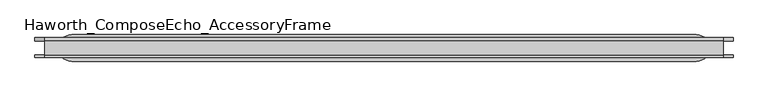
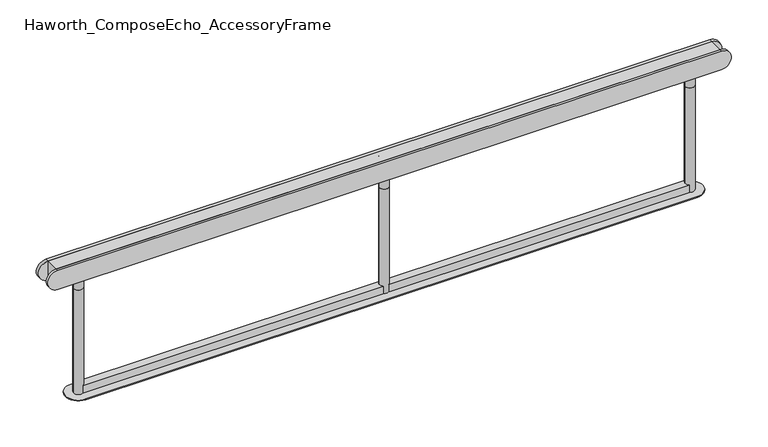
"""IFC4 building model written with IfcOpenShell, lengths in millimetres: furniture geometry, Haworth_ComposeEcho_AccessoryFrame : 72w 13h No Frame."""

import ifcopenshell
import ifcopenshell.guid

model = None  # the IFC model being written
_history = None  # IfcOwnerHistory: only IFC2X3 demands one
_inside = {}  # id of a spatial element -> (the spatial element, [elements in it])
_under = {}  # id of a project, library or spatial element -> (it, [spatial elements below it])
_declared = {}  # id of a project -> (the project, [libraries it declares])
_typed = {}  # id of a type object -> (the type object, [elements of that type])
_made_of = {}  # id of a material, layer set ... -> (it, [elements and type objects made of it])


def new_model(schema):
    """Start an empty IFC model of exactly this schema.

    Asked for "IFC4X3", IfcOpenShell would pick the latest addendum, in which some entities
    have other attributes; the version numbers below select the first issue.
    IFC2X3 requires an IfcOwnerHistory on every rooted entity: one is made here for all.
    """
    global model, _history
    if schema == "IFC4X3":
        model = ifcopenshell.file(schema_version=(4, 3, 0, 0))
    else:
        model = ifcopenshell.file(schema=schema)
    _inside.clear()
    _under.clear()
    _declared.clear()
    _typed.clear()
    _made_of.clear()
    _history = None
    if model.schema == "IFC2X3":
        org = make("IfcOrganization", Name="unknown")
        user = make(
            "IfcPersonAndOrganization",
            ThePerson=make("IfcPerson", FamilyName="unknown"),
            TheOrganization=org,
        )
        app = make(
            "IfcApplication",
            ApplicationDeveloper=org,
            Version="unknown",
            ApplicationFullName="unknown",
            ApplicationIdentifier="unknown",
        )
        _history = make(
            "IfcOwnerHistory",
            OwningUser=user,
            OwningApplication=app,
            ChangeAction="ADDED",
            CreationDate=0,
        )
    return model


def make(cls, **values):
    """One entity of the class cls with the attributes given. An attribute that is None is left unset."""
    return model.create_entity(
        cls, **{name: value for name, value in values.items() if value is not None}
    )


def rooted(cls, **values):
    """An entity with a GlobalId (a new one), such as an element, a storey or a relation."""
    return make(cls, GlobalId=ifcopenshell.guid.new(), OwnerHistory=_history, **values)


def si_unit(unit_type, name, prefix=None):
    """IfcSIUnit, for example si_unit("LENGTHUNIT", "METRE", prefix="MILLI")."""
    return make("IfcSIUnit", UnitType=unit_type, Prefix=prefix, Name=name)


def assignment(units):
    """IfcUnitAssignment: the units of a project."""
    return None if units is None else make("IfcUnitAssignment", Units=units)


def point(xyz):
    """IfcCartesianPoint."""
    return None if xyz is None else make("IfcCartesianPoint", Coordinates=xyz)


def direction(xyz):
    """IfcDirection."""
    return None if xyz is None else make("IfcDirection", DirectionRatios=xyz)


def frame(location, z_axis=None, x_axis=None):
    """IfcAxis2Placement3D, a coordinate frame: its origin and axes. An axis left out is left unset."""
    return make(
        "IfcAxis2Placement3D",
        Location=point(location),
        Axis=direction(z_axis),
        RefDirection=direction(x_axis),
    )


def frame_2d(location, x_axis=None):
    """IfcAxis2Placement2D, a coordinate frame in the plane: its origin and x axis."""
    return make(
        "IfcAxis2Placement2D", Location=point(location), RefDirection=direction(x_axis)
    )


def origin():
    """The frame at (0, 0, 0) with its axes left unset."""
    return frame((0.0, 0.0, 0.0))


def place(relative_to, where):
    """IfcLocalPlacement: puts the frame where relative to a parent placement (None: the world)."""
    return make(
        "IfcLocalPlacement", PlacementRelTo=relative_to, RelativePlacement=where
    )


def context(
    kind, dimensions, precision=None, world=None, true_north=None, identifier=None
):
    """IfcGeometricRepresentationContext, for example the 3D "Model" context."""
    return make(
        "IfcGeometricRepresentationContext",
        ContextIdentifier=identifier,
        ContextType=kind,
        CoordinateSpaceDimension=dimensions,
        Precision=precision,
        WorldCoordinateSystem=world,
        TrueNorth=true_north,
    )


def project(units=None, contexts=None):
    """IfcProject with its units and contexts."""
    return rooted(
        "IfcProject",
        Name="project",
        RepresentationContexts=contexts,
        UnitsInContext=assignment(units),
    )


def spatial(cls, under=None, at=None, **own):
    """A site, building, storey or space (cls), placed at a placement, below another one or the project."""
    s = rooted(cls, ObjectPlacement=at, **own)
    if under is not None:
        _under.setdefault(under.id(), (under, []))[1].append(s)
    return s


def polyline(points):
    """IfcPolyline through the points."""
    return make("IfcPolyline", Points=[point(p) for p in points])


def circle_curve(where, radius):
    """IfcCircle in the frame where."""
    return make("IfcCircle", Position=where, Radius=radius)


def trimmed(basis, trim1, trim2, sense, master):
    """IfcTrimmedCurve: the piece of a basis curve between two trims."""
    return make(
        "IfcTrimmedCurve",
        BasisCurve=basis,
        Trim1=trim1,
        Trim2=trim2,
        SenseAgreement=sense,
        MasterRepresentation=master,
    )


def segment(curve, same_sense, transition):
    """IfcCompositeCurveSegment."""
    return make(
        "IfcCompositeCurveSegment",
        Transition=transition,
        SameSense=same_sense,
        ParentCurve=curve,
    )


def composite_curve(segments, self_intersect=None):
    """IfcCompositeCurve: segments joined end to end."""
    return make("IfcCompositeCurve", Segments=segments, SelfIntersect=self_intersect)


def outline(outer, holes=None, kind="AREA"):
    """IfcArbitraryClosedProfileDef: a profile drawn as a closed curve; with holes, ...WithVoids."""
    if holes is None:
        return make("IfcArbitraryClosedProfileDef", ProfileType=kind, OuterCurve=outer)
    return make(
        "IfcArbitraryProfileDefWithVoids",
        ProfileType=kind,
        OuterCurve=outer,
        InnerCurves=holes,
    )


def extrude(swept, where, along, depth):
    """IfcExtrudedAreaSolid: the profile swept, set in the frame where, extruded along a direction by depth."""
    return make(
        "IfcExtrudedAreaSolid",
        SweptArea=swept,
        Position=where,
        ExtrudedDirection=direction(along),
        Depth=depth,
    )


def shape(context_of_items, identifier, shape_type, items):
    """IfcShapeRepresentation: the items that make up one representation, for example the "Body"."""
    return make(
        "IfcShapeRepresentation",
        ContextOfItems=context_of_items,
        RepresentationIdentifier=identifier,
        RepresentationType=shape_type,
        Items=items,
    )


def source(mapping_origin, context_of_items, identifier, shape_type, items):
    """IfcRepresentationMap: a shape defined once, which mapped items show again and again."""
    return make(
        "IfcRepresentationMap",
        MappingOrigin=mapping_origin,
        MappedRepresentation=shape(context_of_items, identifier, shape_type, items),
    )


def transform(
    local_origin,
    x_axis=None,
    y_axis=None,
    z_axis=None,
    scale=None,
    scale2=None,
    scale3=None,
    uniform=True,
):
    """IfcCartesianTransformationOperator3D, or its non-uniform kind. x_axis, y_axis, z_axis: its Axis1, 2, 3."""
    if uniform:
        return make(
            "IfcCartesianTransformationOperator3D",
            Axis1=direction(x_axis),
            Axis2=direction(y_axis),
            LocalOrigin=point(local_origin),
            Scale=scale,
            Axis3=direction(z_axis),
        )
    return make(
        "IfcCartesianTransformationOperator3DnonUniform",
        Axis1=direction(x_axis),
        Axis2=direction(y_axis),
        LocalOrigin=point(local_origin),
        Scale=scale,
        Axis3=direction(z_axis),
        Scale2=scale2,
        Scale3=scale3,
    )


def mapped(mapping_source, mapping_target):
    """IfcMappedItem: shows the shape of a source again, moved by a transform."""
    return make(
        "IfcMappedItem", MappingSource=mapping_source, MappingTarget=mapping_target
    )


def made_of(thing, what):
    """Note that an element or type object is made of a material, layer set ...; save() writes the relation."""
    if what is not None:
        _made_of.setdefault(what.id(), (what, []))[1].append(thing)
    return thing


def element(
    cls,
    number,
    at=None,
    inside=None,
    cuts=None,
    type_object=None,
    material=None,
    context=None,
    identifier="Body",
    shape_type=None,
    held_by="IfcProductDefinitionShape",
    body=None,
    shapes=None,
    **own,
):
    """One element of the class cls, such as IfcWall. Its Tag is "e" and its number.

    at: its placement. inside: the storey or other place that contains it. cuts: it is an
    opening in that element (IfcRelVoidsElement). A single representation is given by context,
    identifier, shape_type and body (its items); several are given by shapes. held_by: the class
    of the entity that holds the representations. save() writes the other relations.
    """
    e = rooted(cls, Tag="e%d" % number, ObjectPlacement=at, **own)
    if body is not None:
        shapes = [shape(context, identifier, shape_type, body)]
    if shapes is not None:
        e.Representation = make(held_by, Representations=shapes)
    if inside is not None:
        _inside.setdefault(inside.id(), (inside, []))[1].append(e)
    if cuts is not None:
        rooted(
            "IfcRelVoidsElement", RelatingBuildingElement=cuts, RelatedOpeningElement=e
        )
    if type_object is not None:
        _typed.setdefault(type_object.id(), (type_object, []))[1].append(e)
    return made_of(e, material)


def aggregate(whole, parts):
    """IfcRelAggregates: a whole, such as a stair, and the parts it consists of."""
    return rooted("IfcRelAggregates", RelatingObject=whole, RelatedObjects=parts)


def save(model, path):
    """Write the relations noted so far, then the file.

    IfcRelAggregates (storeys below a building ...), IfcRelContainedInSpatialStructure (elements
    in a storey), IfcRelDefinesByType, IfcRelAssociatesMaterial and IfcRelDeclares: one each for
    every whole, place, type object, material and project.
    """
    for whole, parts in _under.values():
        aggregate(whole, parts)
    for where, things in _inside.values():
        rooted(
            "IfcRelContainedInSpatialStructure",
            RelatedElements=things,
            RelatingStructure=where,
        )
    for kind, things in _typed.values():
        rooted("IfcRelDefinesByType", RelatedObjects=things, RelatingType=kind)
    for what, things in _made_of.values():
        rooted("IfcRelAssociatesMaterial", RelatedObjects=things, RelatingMaterial=what)
    for by, libraries in _declared.values():
        rooted("IfcRelDeclares", RelatingContext=by, RelatedDefinitions=libraries)
    model.write(path)


def haworth_composeecho_accessoryframe_02b97702(model_context):
    return source(origin(), model_context, "Body", "SweptSolid", [
        extrude(outline(composite_curve([segment(trimmed(circle_curve(frame_2d((2.4402902, 0.0)), 11.1130959), [point((-8.6728057, 0.0))], [point((13.5533861, 0.0))], False, "CARTESIAN"), True, "CONTINUOUS"), segment(trimmed(circle_curve(frame_2d((2.4402902, 0.0)), 11.1130959), [point((13.5533861, 0.0))], [point((-8.6728057, 0.0))], False, "CARTESIAN"), True, "CONTINUOUS")], self_intersect=False)), frame((0.0, 0.0, 1335.081865), z_axis=(0.0, 0.0, 1.0), x_axis=(1.0, 0.0, 0.0)), (0.0, 0.0, 1.0), 76.2),
        extrude(outline(composite_curve([segment(trimmed(circle_curve(frame_2d((2.4402902, 0.0)), 11.1130959), [point((-8.6728057, 0.0))], [point((13.5533861, 0.0))], False, "CARTESIAN"), True, "CONTINUOUS"), segment(trimmed(circle_curve(frame_2d((2.4402902, 0.0)), 11.1130959), [point((13.5533861, 0.0))], [point((-8.6728057, 0.0))], False, "CARTESIAN"), True, "CONTINUOUS")], self_intersect=False)), frame((0.0, 0.0, 1066.8), z_axis=(0.0, 0.0, 1.0), x_axis=(1.0, 0.0, 0.0)), (0.0, 0.0, 1.0), 268.281865),
        extrude(outline(composite_curve([segment(trimmed(circle_curve(frame_2d((739.0402902, 0.0)), 11.1130959), [point((727.9271943, 0.0))], [point((750.1533861, 0.0))], False, "CARTESIAN"), True, "CONTINUOUS"), segment(trimmed(circle_curve(frame_2d((739.0402902, 0.0)), 11.1130959), [point((750.1533861, 0.0))], [point((727.9271943, 0.0))], False, "CARTESIAN"), True, "CONTINUOUS")], self_intersect=False)), frame((0.0, 0.0, 1335.081865), z_axis=(0.0, 0.0, 1.0), x_axis=(1.0, 0.0, 0.0)), (0.0, 0.0, 1.0), 76.2),
        extrude(outline(composite_curve([segment(trimmed(circle_curve(frame_2d((739.0402902, 0.0)), 11.1130959), [point((727.9271943, 0.0))], [point((750.1533861, 0.0))], False, "CARTESIAN"), True, "CONTINUOUS"), segment(trimmed(circle_curve(frame_2d((739.0402902, 0.0)), 11.1130959), [point((750.1533861, 0.0))], [point((727.9271943, 0.0))], False, "CARTESIAN"), True, "CONTINUOUS")], self_intersect=False)), frame((0.0, 0.0, 1066.8), z_axis=(0.0, 0.0, 1.0), x_axis=(1.0, 0.0, 0.0)), (0.0, 0.0, 1.0), 268.281865),
        extrude(outline(composite_curve([segment(trimmed(circle_curve(frame_2d((-734.1597098, 0.0)), 11.1130959), [point((-745.2728057, 0.0))], [point((-723.0466139, 0.0))], False, "CARTESIAN"), True, "CONTINUOUS"), segment(trimmed(circle_curve(frame_2d((-734.1597098, 0.0)), 11.1130959), [point((-723.0466139, 0.0))], [point((-745.2728057, 0.0))], False, "CARTESIAN"), True, "CONTINUOUS")], self_intersect=False)), frame((0.0, 0.0, 1335.081865), z_axis=(0.0, 0.0, 1.0), x_axis=(1.0, 0.0, 0.0)), (0.0, 0.0, 1.0), 76.2),
        extrude(outline(composite_curve([segment(trimmed(circle_curve(frame_2d((-734.1597098, 0.0)), 11.1130959), [point((-745.2728057, 0.0))], [point((-723.0466139, 0.0))], False, "CARTESIAN"), True, "CONTINUOUS"), segment(trimmed(circle_curve(frame_2d((-734.1597098, 0.0)), 11.1130959), [point((-723.0466139, 0.0))], [point((-745.2728057, 0.0))], False, "CARTESIAN"), True, "CONTINUOUS")], self_intersect=False)), frame((0.0, 0.0, 1066.8), z_axis=(0.0, 0.0, 1.0), x_axis=(1.0, 0.0, 0.0)), (0.0, 0.0, 1.0), 268.281865),
        extrude(outline(polyline([(801.6766902, -16.7063446), (-796.7961098, -16.7063446), (-796.7961098, 16.7061508), (801.6766902, 16.7061508), (801.6766902, -16.7063446)])), frame((0.0, 0.0, 1365.6741697), z_axis=(0.0, 0.0, 1.0), x_axis=(1.0, 0.0, 0.0)), (0.0, 0.0, 1.0), 47.6326303),
        extrude(outline(composite_curve([segment(trimmed(circle_curve(frame_2d((1389.4904848, 801.6766902)), 23.8163152), [point((1365.6741697, 801.6766902))], [point((1413.3068, 801.6766902))], False, "CARTESIAN"), True, "CONTINUOUS"), segment(polyline([(1413.3068, 801.6766902), (1413.3068, -796.7961098)]), True, "CONTINUOUS"), segment(trimmed(circle_curve(frame_2d((1389.4904848, -796.7961098)), 23.8163152), [point((1413.3068, -796.7961098))], [point((1365.6741697, -796.7961098))], False, "CARTESIAN"), True, "CONTINUOUS"), segment(polyline([(1365.6741697, -796.7961098), (1365.6741697, 801.6766902)]), True, "CONTINUOUS")], self_intersect=False)), frame((0.0, 16.7061508, 0.0), z_axis=(0.0, 1.0, 0.0), x_axis=(0.0, 0.0, 1.0)), (0.0, 0.0, 1.0), 8.1965927),
        extrude(outline(composite_curve([segment(polyline([(1413.3068, 801.6766902), (1413.3068, -796.7961098)]), True, "CONTINUOUS"), segment(trimmed(circle_curve(frame_2d((1389.4904848, -796.7961098)), 23.8163152), [point((1413.3068, -796.7961098))], [point((1365.6741697, -796.7961098))], False, "CARTESIAN"), True, "CONTINUOUS"), segment(polyline([(1365.6741697, -796.7961098), (1365.6741697, 801.6766902)]), True, "CONTINUOUS"), segment(trimmed(circle_curve(frame_2d((1389.4904848, 801.6766902)), 23.8163152), [point((1365.6741697, 801.6766902))], [point((1413.3068, 801.6766902))], False, "CARTESIAN"), True, "CONTINUOUS")], self_intersect=False)), frame((0.0, -23.0186384, 0.0), z_axis=(0.0, 1.0, 0.0), x_axis=(0.0, 0.0, 1.0)), (0.0, 0.0, 1.0), 6.3122938),
        extrude(outline(polyline([(739.0402902, 9.5195424), (739.0402902, -9.5195424), (-734.1597098, -9.5195424), (-734.1597098, 9.5195424), (739.0402902, 9.5195424)])), frame((0.0, 0.0, 1068.8319015), z_axis=(0.0, 0.0, 1.0), x_axis=(1.0, 0.0, 0.0)), (0.0, 0.0, 1.0), 19.0552873),
        extrude(outline(composite_curve([segment(trimmed(circle_curve(frame_2d((-734.1597098, 0.0027988)), 31.3917195), [point((-734.1597098, -31.3889207))], [point((-734.1597098, 31.3945183))], False, "CARTESIAN"), True, "CONTINUOUS"), segment(polyline([(-734.1597098, 31.3945183), (739.0402902, 31.3945183)]), True, "CONTINUOUS"), segment(trimmed(circle_curve(frame_2d((739.0402902, 0.0027988)), 31.3917195), [point((739.0402902, 31.3945183))], [point((739.0402902, -31.3889207))], False, "CARTESIAN"), True, "CONTINUOUS"), segment(polyline([(739.0402902, -31.3889207), (-734.1597098, -31.3889207)]), True, "CONTINUOUS")], self_intersect=False)), frame((0.0, 0.0, 1066.8), z_axis=(0.0, 0.0, 1.0), x_axis=(1.0, 0.0, 0.0)), (0.0, 0.0, 1.0), 2.0345959),
    ])


if __name__ == "__main__":
    model = new_model("IFC4")
    model_context = context("Model", 3, world=origin())
    ifc_project = project(units=[si_unit("LENGTHUNIT", "METRE", prefix="MILLI")], contexts=[model_context])
    site = spatial("IfcSite", under=ifc_project)
    building = spatial("IfcBuilding", under=site)
    placement = place(None, origin())
    haworth_composeecho_accessoryframe_shape = haworth_composeecho_accessoryframe_02b97702(model_context)
    element("IfcFurniture", 1, ObjectType="Haworth_ComposeEcho_AccessoryFrame : 72w 13h No Frame", at=placement, inside=building, context=model_context, shape_type="MappedRepresentation", body=[
        mapped(haworth_composeecho_accessoryframe_shape, transform((0.0, 0.0, 0.0), x_axis=(1.0, 0.0, 0.0), y_axis=(0.0, 1.0, 0.0), z_axis=(0.0, 0.0, 1.0))),
    ])
    save(model, "model.ifc")
